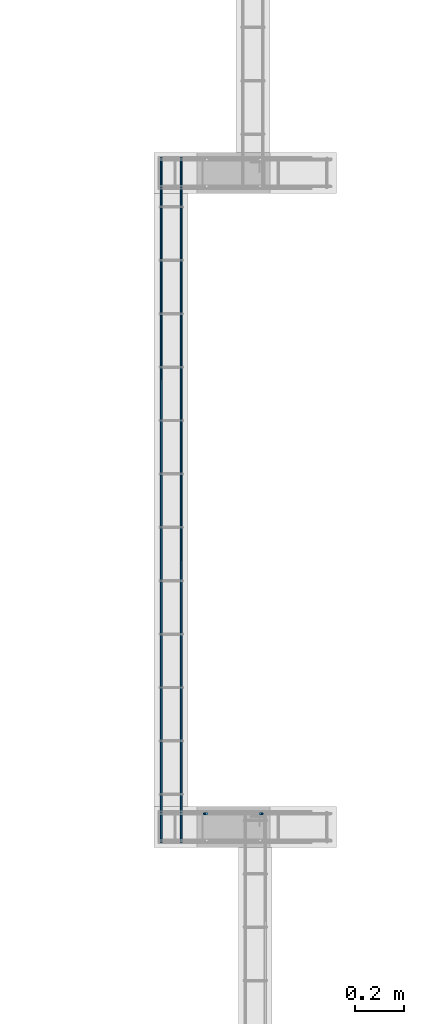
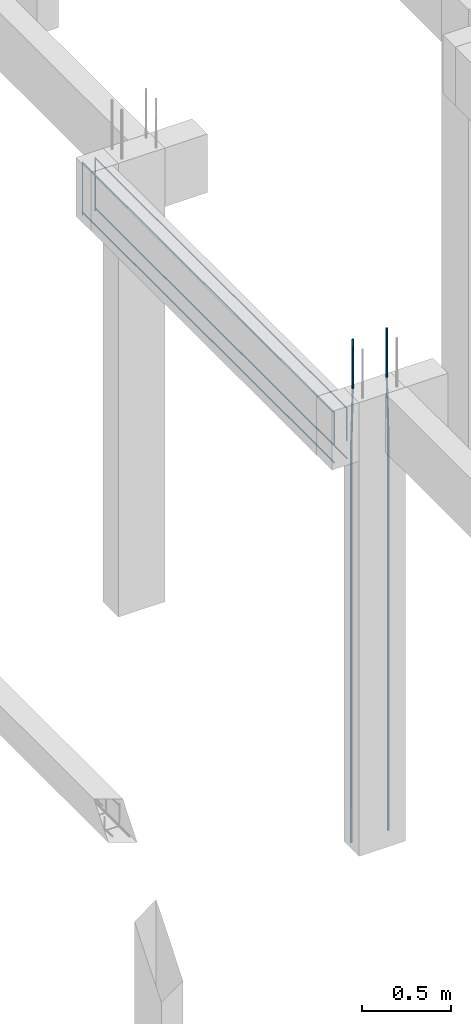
# One storey, part 119 of 236: 6 reinforcing bars.
"""IFC4 building model written with IfcOpenShell, lengths in centimetres."""

from ifc_helpers import new_model, entity, si_unit, derived_unit, frame, origin_with_axes, place, context, project, spatial, element, save


model = new_model("IFC4")

# Units and contexts
model_context = context("Model", 3, precision=1e-05, world=origin_with_axes(), identifier="Body")
ifc_project = project(units=[si_unit("LENGTHUNIT", "METRE", prefix="CENTI"), si_unit("VOLUMEUNIT", "CUBIC_METRE"), si_unit("AREAUNIT", "SQUARE_METRE"), si_unit("POWERUNIT", "WATT"), si_unit("LUMINOUSFLUXUNIT", "LUMEN"), si_unit("ELECTRICCURRENTUNIT", "AMPERE"), si_unit("PRESSUREUNIT", "PASCAL", prefix="KILO"), si_unit("MASSUNIT", "GRAM", prefix="KILO"), si_unit("PLANEANGLEUNIT", "RADIAN"), derived_unit("VOLUMETRICFLOWRATEUNIT", [(si_unit("LENGTHUNIT", "METRE"), 3), (si_unit("TIMEUNIT", "SECOND"), -1)])], contexts=[model_context])

# Site, building, storey
site_placement = place(None, frame((-4000.0, 0.0, 0.0), z_axis=(0.0, 0.0, 1.0), x_axis=(1.0, 0.0, 0.0)))
site = spatial("IfcSite", under=ifc_project, at=site_placement, Name="PADRÃO")
building_placement = place(site_placement, frame((0.0, 0.0, -14.0)))
building = spatial("IfcBuilding", under=site, at=building_placement, Name="CRECHE PRÉ-ESCOLA TIPO 2")
placement_1 = place(building_placement, origin_with_axes())
placement_2 = place(placement_1, frame((0.0, 0.0, 30.0), z_axis=(0.0, 0.0, 1.0), x_axis=(1.0, 0.0, 0.0)))
storey_placement = place(placement_2, frame((0.0, 0.0, 310.0), z_axis=(0.0, 0.0, 1.0), x_axis=(1.0, 0.0, 0.0)))
storey = spatial("IfcBuildingStorey", under=building, at=storey_placement, Name="TERREO", CompositionType="ELEMENT", Elevation=326.0)

# Reinforcing bars
reinforcing_bar_1_placement = place(storey_placement, frame((278.5, 3206.0, 33.3573001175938), z_axis=(0.0, 0.0, 1.0), x_axis=(1.0, 0.0, 0.0)))
element("IfcReinforcingBar", 1, at=reinforcing_bar_1_placement, inside=storey, Name="P47 - Longitudinal", BarLength=0.0, CrossSectionArea=7.853981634e-05, NominalDiameter=1.0, PredefinedType="MAIN", context=model_context, shape_type="AdvancedSweptSolid", body=[
    entity("IfcSweptDiskSolid", entity("IfcCompositeCurve", [entity("IfcCompositeCurveSegment", "CONTINUOUS", True, entity("IfcPolyline", [entity("IfcCartesianPoint", [0.5, 0.0, -343.357300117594]), entity("IfcCartesianPoint", [0.5, 0.0, -73.3573001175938])])), entity("IfcCompositeCurveSegment", "CONTINUOUS", True, entity("IfcPolyline", [entity("IfcCartesianPoint", [0.5, 0.0, -73.3573001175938]), entity("IfcCartesianPoint", [-0.5, 0.0, -33.3573001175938])])), entity("IfcCompositeCurveSegment", "CONTINUOUS", True, entity("IfcPolyline", [entity("IfcCartesianPoint", [-0.5, 0.0, -33.3573001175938]), entity("IfcCartesianPoint", [-0.5, 0.0, 0.0])]))], False), 0.5),
])
reinforcing_bar_2_placement = place(storey_placement, frame((255.5, 3206.0, 33.3573001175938), z_axis=(0.0, 0.0, 1.0), x_axis=(1.0, 0.0, 0.0)))
element("IfcReinforcingBar", 2, at=reinforcing_bar_2_placement, inside=storey, Name="P47 - Longitudinal", BarLength=0.0, CrossSectionArea=7.853981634e-05, NominalDiameter=1.0, PredefinedType="MAIN", context=model_context, shape_type="AdvancedSweptSolid", body=[
    entity("IfcSweptDiskSolid", entity("IfcCompositeCurve", [entity("IfcCompositeCurveSegment", "CONTINUOUS", True, entity("IfcPolyline", [entity("IfcCartesianPoint", [-0.5, 0.0, -343.357300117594]), entity("IfcCartesianPoint", [-0.5, 0.0, -73.3573001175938])])), entity("IfcCompositeCurveSegment", "CONTINUOUS", True, entity("IfcPolyline", [entity("IfcCartesianPoint", [-0.5, 0.0, -73.3573001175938]), entity("IfcCartesianPoint", [0.5, 0.0, -33.3573001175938])])), entity("IfcCompositeCurveSegment", "CONTINUOUS", True, entity("IfcPolyline", [entity("IfcCartesianPoint", [0.5, 0.0, -33.3573001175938]), entity("IfcCartesianPoint", [0.5, 0.0, 0.0])]))], False), 0.5),
])
for number, where, z_axis, x_axis, name in (
    (3, (245.47, 3335.25, -36.7), (0.0, 0.0, 1.0), (1.0, 0.0, 0.0), "V263 - Longitudinal inferior"),
    (4, (237.27, 3335.25, -36.7), (0.0, 0.0, 1.0), (1.0, 0.0, 0.0), "V263 - Longitudinal inferior"),
):
    element("IfcReinforcingBar", number, at=place(storey_placement, frame(where, z_axis=z_axis, x_axis=x_axis)), inside=storey, Name=name, BarLength=0.0, CrossSectionArea=5.0265482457e-05, NominalDiameter=0.8, PredefinedType="MAIN", context=model_context, shape_type="AdvancedSweptSolid", body=[
        entity("IfcSweptDiskSolid", entity("IfcCompositeCurve", [entity("IfcCompositeCurveSegment", "CONTINUOUS", True, entity("IfcPolyline", [entity("IfcCartesianPoint", [0.0, -141.25, -0.4]), entity("IfcCartesianPoint", [0.0, 141.25, -0.4])]))], False), 0.4),
    ])
for number, where, z_axis, x_axis, name in (
    (5, (245.47, 3335.25, -2.49624973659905), (0.0, 0.0, 1.0), (1.0, 0.0, 0.0), "V263 - Longitudinal superior"),
    (6, (237.27, 3335.25, -2.49624973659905), (0.0, 0.0, 1.0), (1.0, 0.0, 0.0), "V263 - Longitudinal superior"),
):
    element("IfcReinforcingBar", number, at=place(storey_placement, frame(where, z_axis=z_axis, x_axis=x_axis)), inside=storey, Name=name, BarLength=0.0, CrossSectionArea=5.0265482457e-05, NominalDiameter=0.8, PredefinedType="MAIN", context=model_context, shape_type="AdvancedSweptSolid", body=[
        entity("IfcSweptDiskSolid", entity("IfcCompositeCurve", [entity("IfcCompositeCurveSegment", "CONTINUOUS", True, entity("IfcPolyline", [entity("IfcCartesianPoint", [0.0, -140.85, -22.7014629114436]), entity("IfcCartesianPoint", [0.0, -140.85, -0.403750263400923])])), entity("IfcCompositeCurveSegment", "CONTINUOUS", True, entity("IfcPolyline", [entity("IfcCartesianPoint", [0.0, -140.85, -0.403750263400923]), entity("IfcCartesianPoint", [0.0, 140.85, -0.403750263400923])])), entity("IfcCompositeCurveSegment", "CONTINUOUS", True, entity("IfcPolyline", [entity("IfcCartesianPoint", [0.0, 140.85, -0.403750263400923]), entity("IfcCartesianPoint", [0.0, 140.85, -36.4037502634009])]))], False), 0.4),
    ])

save(model, "model.ifc")
